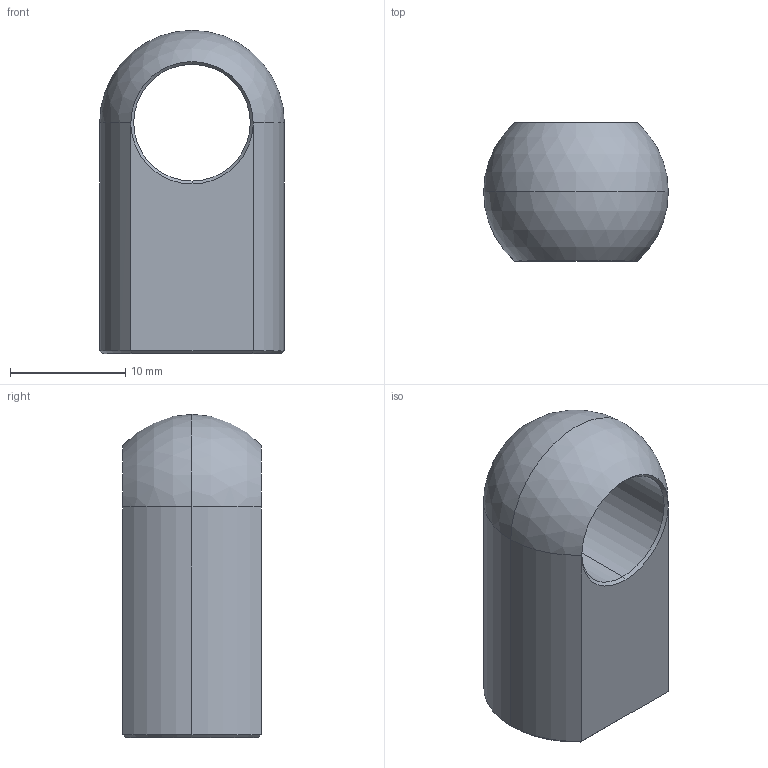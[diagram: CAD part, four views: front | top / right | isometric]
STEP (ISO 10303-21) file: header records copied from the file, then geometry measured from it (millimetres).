
FILE_DESCRIPTION (( 'STEP AP214' ), '1' );
FILE_NAME ('18.09A1T.STEP', '2017-11-09T11:36:03', ( '' ), ( '' ), 'SwSTEP 2.0', 'SolidWorks 2016', '' );
FILE_SCHEMA (( 'AUTOMOTIVE_DESIGN' ));
Length unit declared in the file: millimetre
Products named in the file (1): 18.09A1T
Bounding box: 16 x 12 x 28 mm (x, y, z)
Volume: 2723.5 mm3; surface area: 2054.2 mm2
Topology: 1 solids, 1 shells, 25 faces, 63 edges, 37 vertices
Faces by surface type: cone 11, cylinder 7, plane 5, sphere 2
Entity records: 784 total; most frequent: CARTESIAN_POINT 148, DIRECTION 136, ORIENTED_EDGE 122, EDGE_CURVE 61, AXIS2_PLACEMENT_3D 57, VERTEX_POINT 37, CIRCLE 31, EDGE_LOOP 26
